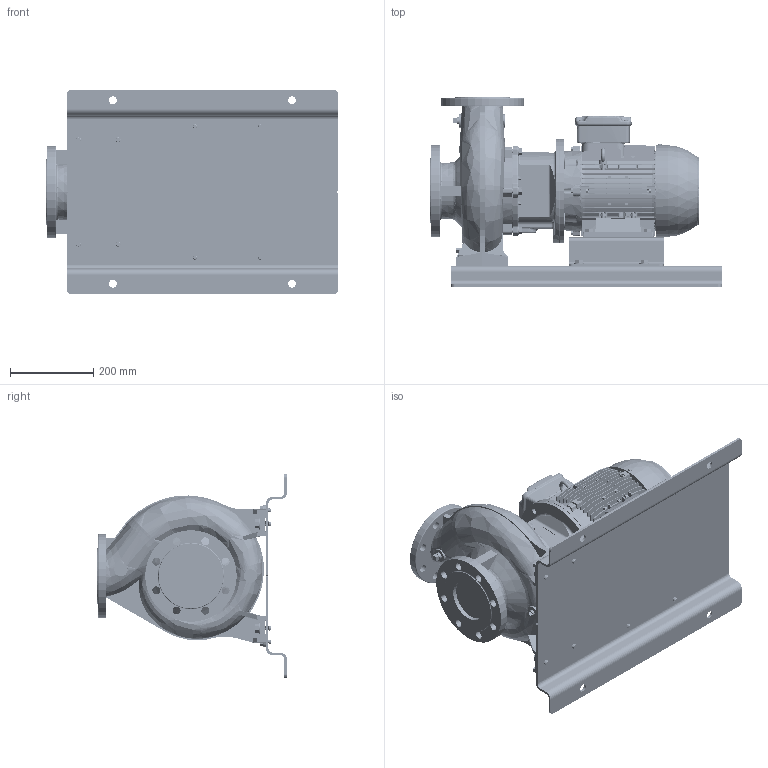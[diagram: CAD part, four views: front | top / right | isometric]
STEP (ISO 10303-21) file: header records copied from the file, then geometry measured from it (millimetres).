
FILE_DESCRIPTION (( 'STEP AP214' ), '1' );
FILE_NAME ('GSD4 80-160_4.0_(112M)_W21_BP.STEP', '2026-05-08T06:52:32', ( '' ), ( '' ), 'SwSTEP 2.0', 'SolidWorks 2024', '' );
FILE_SCHEMA (( 'AUTOMOTIVE_DESIGN' ));
Length unit declared in the file: millimetre
Products named in the file (13): Parametric bolt and washer_SFT-A249B; Parametric Flat Washer_M10; Parametric bolt_SFT-A253B; Parametric bolt and washer_SFT-A299B; Parametric bolt_SFT-A249B; GSD4 80-160_4.0_(112M)_W21_BP; Parametric Flat Washer_M12; N5S5 GSDA-554 F1-1832917-00; 112M ALIE3_W21T_B35; 140_178 x 68 BP - 271472191; 80-160-112M_ﾃﾞﾌｫﾙﾄ; Parametric bolt and washer_SFT-A253B; Parametric bolt_SFT-A299B
Assembly tree (22 placements, depth 3):
  GSD4 80-160_4.0_(112M)_W21_BP
    80-160-112M_ﾃﾞﾌｫﾙﾄ
    112M ALIE3_W21T_B35
    N5S5 GSDA-554 F1-1832917-00
    140_178 x 68 BP - 271472191
    Parametric bolt and washer_SFT-A249B  x4
      Parametric bolt_SFT-A249B
      Parametric Flat Washer_M10
    Parametric bolt and washer_SFT-A253B  x4
      Parametric bolt_SFT-A253B
      Parametric Flat Washer_M10
    Parametric bolt and washer_SFT-A299B  x4
      Parametric bolt_SFT-A299B
      Parametric Flat Washer_M12
Bounding box: 700 x 455 x 490 mm (x, y, z)
Volume: 26771124.8 mm3; surface area: 2540573.6 mm2
Topology: 38 solids, 40 shells, 5221 faces, 13932 edges, 9060 vertices
Faces by surface type: plane 2675, cylinder 1291, bspline 508, torus 375, cone 361, sphere 11
Entity records: 211788 total; most frequent: CARTESIAN_POINT 99214, ORIENTED_EDGE 25252, DIRECTION 20459, EDGE_CURVE 12626, VERTEX_POINT 8220, LINE 7083, VECTOR 7083, AXIS2_PLACEMENT_3D 6688
